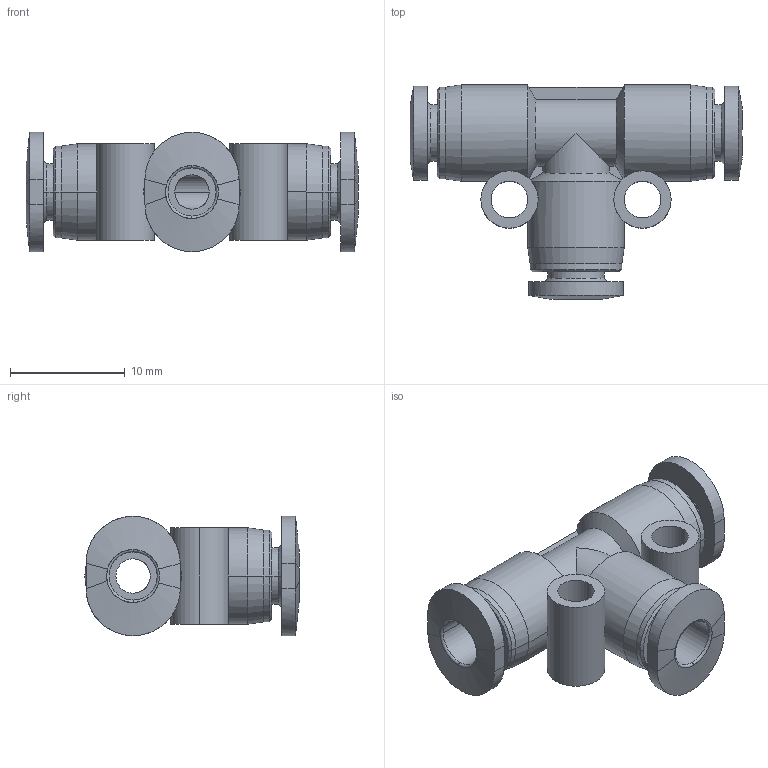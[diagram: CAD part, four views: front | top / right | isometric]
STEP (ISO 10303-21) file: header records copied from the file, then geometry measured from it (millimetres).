
FILE_DESCRIPTION (( 'STEP AP203' ), '1' );
FILE_NAME ('FMT04-00.STEP', '2020-07-07T11:17:52', ( '' ), ( '' ), 'SwSTEP 2.0', 'SolidWorks 2019', '' );
FILE_SCHEMA (( 'CONFIG_CONTROL_DESIGN' ));
Length unit declared in the file: millimetre
Products named in the file (1): FMT04-00
Bounding box: 28.94 x 18.67 x 10.4 mm (x, y, z)
Volume: 1586 mm3; surface area: 2286 mm2
Topology: 1 solids, 1 shells, 117 faces, 285 edges, 178 vertices
Faces by surface type: cylinder 42, cone 24, bspline 24, plane 21, torus 6
Entity records: 4562 total; most frequent: CARTESIAN_POINT 1844, ORIENTED_EDGE 570, DIRECTION 533, EDGE_CURVE 285, AXIS2_PLACEMENT_3D 219, VERTEX_POINT 178, EDGE_LOOP 133, CIRCLE 125
